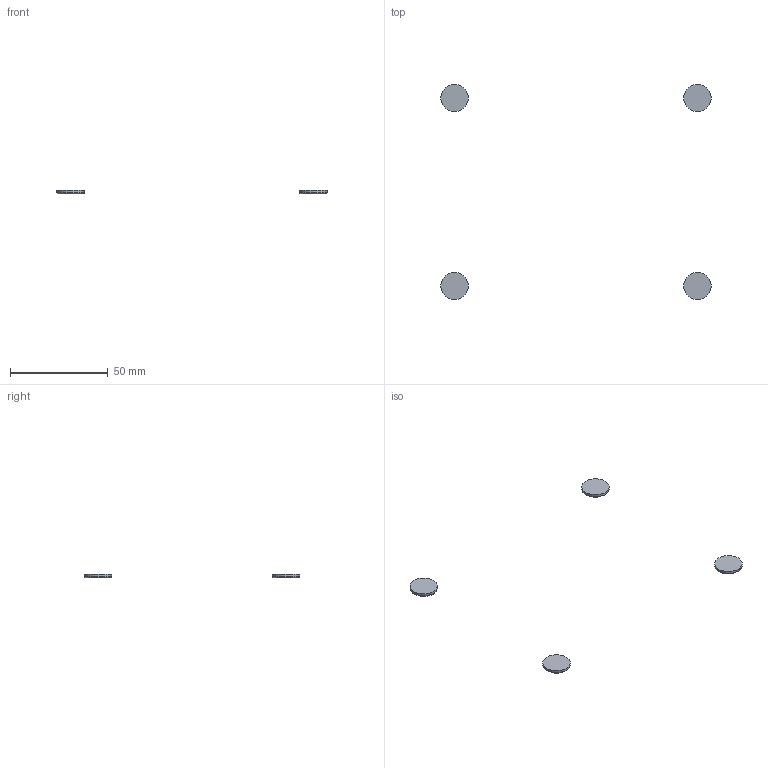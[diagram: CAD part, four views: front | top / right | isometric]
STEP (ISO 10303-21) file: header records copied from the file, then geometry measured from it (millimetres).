
FILE_DESCRIPTION(('Open CASCADE Model'),'2;1');
FILE_NAME('Open CASCADE Shape Model','2026-11-01T16:28:02',('Author'),( 'Open CASCADE'),'Open CASCADE STEP processor 8.0','build123d', 'Unknown');
FILE_SCHEMA(('AUTOMOTIVE_DESIGN { 1 0 10303 214 1 1 1 1 }'));
Length unit declared in the file: millimetre
Products named in the file (1): COMPOUND
Bounding box: 138 x 110 x 2 mm (x, y, z)
Volume: 1208 mm3; surface area: 1521.8 mm2
Topology: 4 solids, 4 shells, 16 faces, 20 edges, 12 vertices
Faces by surface type: plane 8, cylinder 4, torus 4
Full cylindrical faces by diameter (mm): 14 x4
Entity records: 584 total; most frequent: DIRECTION 102, CARTESIAN_POINT 97, ORIENTED_EDGE 40, PCURVE 40, DEFINITIONAL_REPRESENTATION 40, AXIS2_PLACEMENT_3D 33, LINE 28, VECTOR 28
